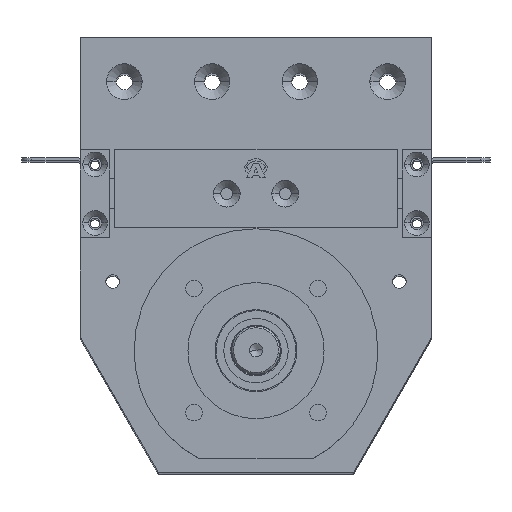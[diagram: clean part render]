
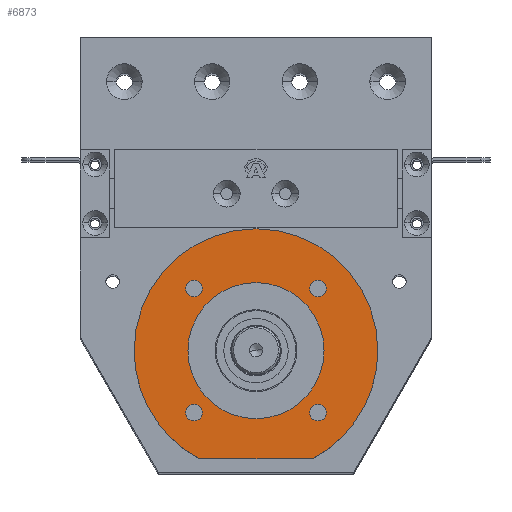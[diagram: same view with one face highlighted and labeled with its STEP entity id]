
A CAD part, top view. The second image highlights one B-rep face of the part: STEP entity #6873.
In plain terms, the highlighted planar face has unit normal (0, 0, 1) as drawn and (-1, 0, 0) by its records, which use the part's own axes.
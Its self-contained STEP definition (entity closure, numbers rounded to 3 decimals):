
#330 = EDGE_CURVE ( 'NONE', #18231, #18327, #18229, .T. ) ;
#493 = AXIS2_PLACEMENT_3D ( 'NONE', #20743, #20610, #17230 ) ;
#594 = DIRECTION ( 'NONE',  ( 0., 0., 1. ) ) ;
#700 = DIRECTION ( 'NONE',  ( 1., 0., 0. ) ) ;
#773 = EDGE_LOOP ( 'NONE', ( #10248, #6883, #9575, #4722 ) ) ;
#885 = CARTESIAN_POINT ( 'NONE',  ( 2., 31.82, 31.82 ) ) ;
#926 = CARTESIAN_POINT ( 'NONE',  ( 2., 0., 62.5 ) ) ;
#1032 = VERTEX_POINT ( 'NONE', #926 ) ;
#1221 = DIRECTION ( 'NONE',  ( -1., 0., 0. ) ) ;
#1510 = CARTESIAN_POINT ( 'NONE',  ( 2., 31.82, -27.57 ) ) ;
#1595 = AXIS2_PLACEMENT_3D ( 'NONE', #1762, #3320, #6595 ) ;
#1659 = AXIS2_PLACEMENT_3D ( 'NONE', #7560, #20540, #15604 ) ;
#1677 = FACE_OUTER_BOUND ( 'NONE', #773, .T. ) ;
#1762 = CARTESIAN_POINT ( 'NONE',  ( 2., 31.82, 31.82 ) ) ;
#1868 = CARTESIAN_POINT ( 'NONE',  ( 2., -31.82, -31.82 ) ) ;
#1900 = ORIENTED_EDGE ( 'NONE', *, *, #7567, .T. ) ;
#1982 = CARTESIAN_POINT ( 'NONE',  ( 2., -31.82, 27.57 ) ) ;
#2136 = AXIS2_PLACEMENT_3D ( 'NONE', #2349, #700, #5421 ) ;
#2235 = VERTEX_POINT ( 'NONE', #11839 ) ;
#2349 = CARTESIAN_POINT ( 'NONE',  ( 2., 31.82, -31.82 ) ) ;
#2529 = DIRECTION ( 'NONE',  ( 0., 0., -1. ) ) ;
#2772 = AXIS2_PLACEMENT_3D ( 'NONE', #19024, #17545, #19233 ) ;
#2852 = CARTESIAN_POINT ( 'NONE',  ( 2., 0., 34.9 ) ) ;
#2868 = DIRECTION ( 'NONE',  ( 0., 0., 1. ) ) ;
#2883 = CIRCLE ( 'NONE', #8848, 34.9 ) ;
#3075 = EDGE_CURVE ( 'NONE', #7099, #1032, #3933, .T. ) ;
#3210 = EDGE_CURVE ( 'NONE', #20937, #20397, #20660, .T. ) ;
#3320 = DIRECTION ( 'NONE',  ( 1., 0., 0. ) ) ;
#3460 = DIRECTION ( 'NONE',  ( 0., 0., -1. ) ) ;
#3882 = EDGE_LOOP ( 'NONE', ( #15166, #4766 ) ) ;
#3933 = CIRCLE ( 'NONE', #4688, 62.5 ) ;
#4688 = AXIS2_PLACEMENT_3D ( 'NONE', #11018, #6262, #14437 ) ;
#4722 = ORIENTED_EDGE ( 'NONE', *, *, #15777, .F. ) ;
#4766 = ORIENTED_EDGE ( 'NONE', *, *, #10234, .T. ) ;
#4780 = EDGE_CURVE ( 'NONE', #21015, #12201, #9694, .T. ) ;
#4843 = ORIENTED_EDGE ( 'NONE', *, *, #14380, .T. ) ;
#4857 = DIRECTION ( 'NONE',  ( 1., 0., 0. ) ) ;
#5001 = FACE_BOUND ( 'NONE', #3882, .T. ) ;
#5019 = DIRECTION ( 'NONE',  ( 0., 0., -1. ) ) ;
#5071 = CARTESIAN_POINT ( 'NONE',  ( 2., -31.82, 36.07 ) ) ;
#5421 = DIRECTION ( 'NONE',  ( 0., 0., -1. ) ) ;
#5453 = CARTESIAN_POINT ( 'NONE',  ( 2., 0., 0. ) ) ;
#5793 = DIRECTION ( 'NONE',  ( 0., 0., 1. ) ) ;
#5862 = CARTESIAN_POINT ( 'NONE',  ( 2., 0., 0. ) ) ;
#6020 = CIRCLE ( 'NONE', #1595, 4.25 ) ;
#6262 = DIRECTION ( 'NONE',  ( -1., 0., 0. ) ) ;
#6572 = CIRCLE ( 'NONE', #11920, 62.5 ) ;
#6595 = DIRECTION ( 'NONE',  ( 0., 0., -1. ) ) ;
#6873 = ADVANCED_FACE ( 'NONE', ( #5001, #15158, #13117, #16436, #9042, #1677 ), #12813, .F. ) ;
#6883 = ORIENTED_EDGE ( 'NONE', *, *, #7357, .T. ) ;
#7099 = VERTEX_POINT ( 'NONE', #13597 ) ;
#7357 = EDGE_CURVE ( 'NONE', #1032, #2235, #12318, .T. ) ;
#7424 = ORIENTED_EDGE ( 'NONE', *, *, #330, .T. ) ;
#7493 = CIRCLE ( 'NONE', #1659, 4.25 ) ;
#7560 = CARTESIAN_POINT ( 'NONE',  ( 2., -31.82, 31.82 ) ) ;
#7567 = EDGE_CURVE ( 'NONE', #12201, #21015, #7493, .T. ) ;
#7573 = DIRECTION ( 'NONE',  ( 1., 0., 0. ) ) ;
#7704 = EDGE_LOOP ( 'NONE', ( #7424, #9656 ) ) ;
#7875 = VERTEX_POINT ( 'NONE', #1510 ) ;
#8367 = CARTESIAN_POINT ( 'NONE',  ( 2., 31.82, -31.82 ) ) ;
#8558 = CARTESIAN_POINT ( 'NONE',  ( 2., 0., -34.9 ) ) ;
#8577 = DIRECTION ( 'NONE',  ( 0., 0., -1. ) ) ;
#8659 = CIRCLE ( 'NONE', #2772, 4.25 ) ;
#8686 = EDGE_LOOP ( 'NONE', ( #18870, #4843 ) ) ;
#8773 = AXIS2_PLACEMENT_3D ( 'NONE', #14312, #1221, #2868 ) ;
#8848 = AXIS2_PLACEMENT_3D ( 'NONE', #5453, #10326, #594 ) ;
#9009 = EDGE_CURVE ( 'NONE', #19014, #7875, #16844, .T. ) ;
#9042 = FACE_BOUND ( 'NONE', #12378, .T. ) ;
#9575 = ORIENTED_EDGE ( 'NONE', *, *, #14609, .T. ) ;
#9592 = EDGE_CURVE ( 'NONE', #19368, #14033, #20835, .T. ) ;
#9656 = ORIENTED_EDGE ( 'NONE', *, *, #15639, .T. ) ;
#9694 = CIRCLE ( 'NONE', #493, 4.25 ) ;
#9952 = DIRECTION ( 'NONE',  ( 0., 0., -1. ) ) ;
#10065 = VECTOR ( 'NONE', #8577, 1000. ) ;
#10234 = EDGE_CURVE ( 'NONE', #20397, #20937, #8659, .T. ) ;
#10248 = ORIENTED_EDGE ( 'NONE', *, *, #3075, .T. ) ;
#10326 = DIRECTION ( 'NONE',  ( -1., 0., 0. ) ) ;
#10371 = CARTESIAN_POINT ( 'NONE',  ( 2., 31.82, 27.57 ) ) ;
#10644 = CARTESIAN_POINT ( 'NONE',  ( 2., 31.82, 36.07 ) ) ;
#10774 = ORIENTED_EDGE ( 'NONE', *, *, #9592, .F. ) ;
#11017 = VERTEX_POINT ( 'NONE', #16468 ) ;
#11018 = CARTESIAN_POINT ( 'NONE',  ( 2., 0., 0. ) ) ;
#11042 = CARTESIAN_POINT ( 'NONE',  ( 2., -31.82, -36.07 ) ) ;
#11484 = DIRECTION ( 'NONE',  ( 1., 0., 0. ) ) ;
#11689 = DIRECTION ( 'NONE',  ( -1., 0., 0. ) ) ;
#11839 = CARTESIAN_POINT ( 'NONE',  ( 2., 0., -62.5 ) ) ;
#11920 = AXIS2_PLACEMENT_3D ( 'NONE', #5862, #15530, #5793 ) ;
#12201 = VERTEX_POINT ( 'NONE', #1982 ) ;
#12211 = EDGE_LOOP ( 'NONE', ( #1900, #21074 ) ) ;
#12318 = CIRCLE ( 'NONE', #18656, 62.5 ) ;
#12378 = EDGE_LOOP ( 'NONE', ( #18373, #10774 ) ) ;
#12813 = PLANE ( 'NONE',  #18527 ) ;
#13117 = FACE_BOUND ( 'NONE', #7704, .T. ) ;
#13597 = CARTESIAN_POINT ( 'NONE',  ( 2., -55.5, 28.74 ) ) ;
#13652 = LINE ( 'NONE', #18592, #10065 ) ;
#13903 = AXIS2_PLACEMENT_3D ( 'NONE', #885, #7573, #2529 ) ;
#14033 = VERTEX_POINT ( 'NONE', #2852 ) ;
#14312 = CARTESIAN_POINT ( 'NONE',  ( 2., 0., 0. ) ) ;
#14380 = EDGE_CURVE ( 'NONE', #7875, #19014, #19269, .T. ) ;
#14437 = DIRECTION ( 'NONE',  ( 0., 0., 1. ) ) ;
#14609 = EDGE_CURVE ( 'NONE', #2235, #11017, #6572, .T. ) ;
#15158 = FACE_BOUND ( 'NONE', #12211, .T. ) ;
#15166 = ORIENTED_EDGE ( 'NONE', *, *, #3210, .T. ) ;
#15530 = DIRECTION ( 'NONE',  ( -1., 0., 0. ) ) ;
#15604 = DIRECTION ( 'NONE',  ( 0., 0., -1. ) ) ;
#15639 = EDGE_CURVE ( 'NONE', #18327, #18231, #6020, .T. ) ;
#15777 = EDGE_CURVE ( 'NONE', #7099, #11017, #13652, .T. ) ;
#15811 = CARTESIAN_POINT ( 'NONE',  ( 2., 31.82, -36.07 ) ) ;
#15820 = AXIS2_PLACEMENT_3D ( 'NONE', #8367, #11484, #3460 ) ;
#16384 = DIRECTION ( 'NONE',  ( 1., 0., 0. ) ) ;
#16436 = FACE_BOUND ( 'NONE', #8686, .T. ) ;
#16468 = CARTESIAN_POINT ( 'NONE',  ( 2., -55.5, -28.74 ) ) ;
#16844 = CIRCLE ( 'NONE', #15820, 4.25 ) ;
#17230 = DIRECTION ( 'NONE',  ( 0., 0., -1. ) ) ;
#17545 = DIRECTION ( 'NONE',  ( 1., 0., 0. ) ) ;
#17787 = CARTESIAN_POINT ( 'NONE',  ( 2., 62.5, 0. ) ) ;
#17803 = EDGE_CURVE ( 'NONE', #14033, #19368, #2883, .T. ) ;
#18222 = CARTESIAN_POINT ( 'NONE',  ( 2., 0., 0. ) ) ;
#18229 = CIRCLE ( 'NONE', #13903, 4.25 ) ;
#18231 = VERTEX_POINT ( 'NONE', #10371 ) ;
#18316 = CARTESIAN_POINT ( 'NONE',  ( 2., -31.82, -27.57 ) ) ;
#18327 = VERTEX_POINT ( 'NONE', #10644 ) ;
#18373 = ORIENTED_EDGE ( 'NONE', *, *, #17803, .F. ) ;
#18527 = AXIS2_PLACEMENT_3D ( 'NONE', #17787, #16384, #5019 ) ;
#18592 = CARTESIAN_POINT ( 'NONE',  ( 2., -55.5, 28.74 ) ) ;
#18656 = AXIS2_PLACEMENT_3D ( 'NONE', #18222, #11689, #19936 ) ;
#18870 = ORIENTED_EDGE ( 'NONE', *, *, #9009, .T. ) ;
#19014 = VERTEX_POINT ( 'NONE', #15811 ) ;
#19024 = CARTESIAN_POINT ( 'NONE',  ( 2., -31.82, -31.82 ) ) ;
#19233 = DIRECTION ( 'NONE',  ( 0., 0., -1. ) ) ;
#19269 = CIRCLE ( 'NONE', #2136, 4.25 ) ;
#19368 = VERTEX_POINT ( 'NONE', #8558 ) ;
#19926 = AXIS2_PLACEMENT_3D ( 'NONE', #1868, #4857, #9952 ) ;
#19936 = DIRECTION ( 'NONE',  ( 0., 0., 1. ) ) ;
#20397 = VERTEX_POINT ( 'NONE', #18316 ) ;
#20540 = DIRECTION ( 'NONE',  ( 1., 0., 0. ) ) ;
#20610 = DIRECTION ( 'NONE',  ( 1., 0., 0. ) ) ;
#20660 = CIRCLE ( 'NONE', #19926, 4.25 ) ;
#20743 = CARTESIAN_POINT ( 'NONE',  ( 2., -31.82, 31.82 ) ) ;
#20835 = CIRCLE ( 'NONE', #8773, 34.9 ) ;
#20937 = VERTEX_POINT ( 'NONE', #11042 ) ;
#21015 = VERTEX_POINT ( 'NONE', #5071 ) ;
#21074 = ORIENTED_EDGE ( 'NONE', *, *, #4780, .T. ) ;
